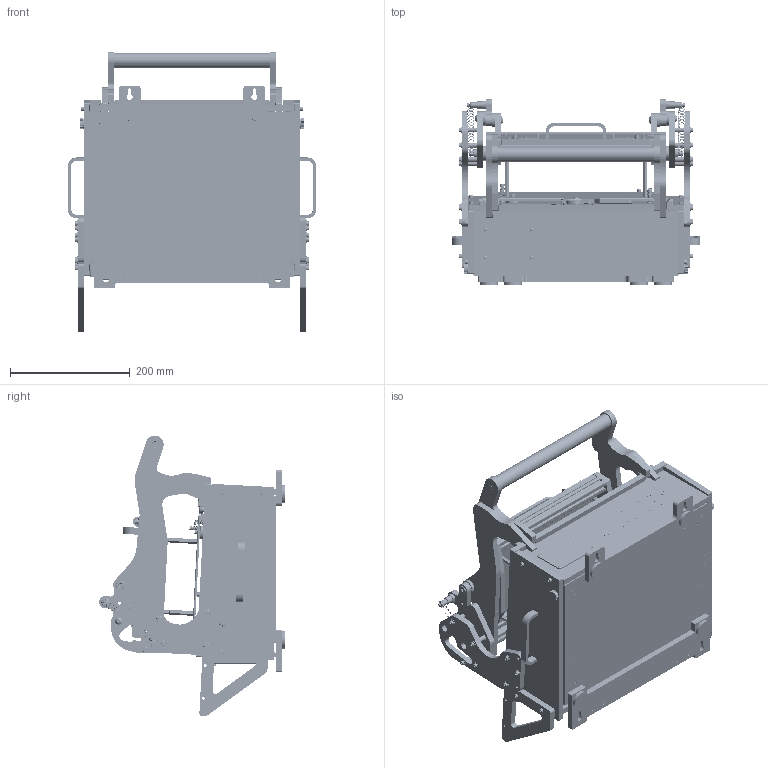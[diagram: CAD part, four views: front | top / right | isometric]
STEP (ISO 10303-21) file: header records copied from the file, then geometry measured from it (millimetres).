
FILE_DESCRIPTION (( 'STEP AP214' ), '1' );
FILE_NAME ('ARF-QLe-P-NSM2-P&P - Fermé.STEP', '2026-10-09T14:19:13', ( '' ), ( '' ), 'SwSTEP 2.0', 'SolidWorks 2015', '' );
FILE_SCHEMA (( 'AUTOMOTIVE_DESIGN' ));
Length unit declared in the file: millimetre
Products named in the file (133): 8005_119; 8005_167; gd4x14; Insert M4 profilé 5; ARF-QLe-P-NSM2-P&P - Fermé; 8005_136; 8005_029; chc_04x12; 8005_058_Connect‚; 8005_407 STEP; V-15-1CQ; 8005_052 - STEP_Fermer; chc_03x06; F Torx 04x08; 607-2z; 8122_444; Poignée_low_cost; F Torx 05x16; 8005_268; 8122_205; 8005_425 STEP; 8005_416; 8131_110 (PlaqueID); 8005_304; chc_04x10; 8005_199; 8005_322; 8005_053; chc_4x16; tb3ss_cage_a_billes_assemblée; Bague a renommer; chc_03x08; t31760; chc_04x20; el_d4x5; 035618047; demi_charniere; 8005_420; chc_03x05; 8005_185_Logo ARF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
Assembly tree (372 placements, depth 6):
  ARF-QLe-P-NSM2-P&P - Fermé
    8005_056_Fermer
      8005_198_Equere fermer
        8005_307
        chc_04x12  x4
        8005_205  x2
        chc_03x20  x4
        chc_03x05  x2
        Compas
          Compas-support1
          bras de compas  x2
          rivet compas  x3
          Compas-support2
        8005_240
        8005_243
        8005_198 (patin en mousse)  x4
        demi_charniere  x2
        F Torx 05x08  x4
      8005_068
        8005_136
          8005_136
          M04 Hu  x4
          F Torx 05x08  x4
          demi_charniere  x2
        8005_185_Logo ARF
          M04 Hu  x4
          8005_185
          8131_110 (PlaqueID)
          RIVET 3 LONG  x4
        8005_088
          8005_255
          M04 Hu  x2
          chc_03x08  x2
          chc_04x16  x2
          Poignée_low_cost
          8005_028
            chc_04x16
            038040159905
          chc_04x10  x2
          gd4x14  x2
        8005_119
          8005_119
          M04 Hu  x2
          chc_04x16  x2
          8005_028
            chc_04x16
            038040159905
          Poignée_low_cost
          chc_04x10  x2
          gd4x14  x2
        8005_058_Connect‚
          8005_200
          8005_128
          8005_268
          chc_04x12  x6
          chc_04x16  x4
          chc_03x20  x2
          chc_03x30  x2
          8005_039
            8005_409
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Bounding box: 413.8 x 309.83 x 468.51 mm (x, y, z)
Volume: 6379129.7 mm3; surface area: 2088133.3 mm2
Topology: 363 solids, 363 shells, 10411 faces, 26470 edges, 17223 vertices
Faces by surface type: plane 4946, cylinder 4147, cone 812, torus 384, bspline 68, sphere 54
Entity records: 204841 total; most frequent: CARTESIAN_POINT 48217, DIRECTION 31729, ORIENTED_EDGE 29634, EDGE_CURVE 14817, AXIS2_PLACEMENT_3D 11849, VERTEX_POINT 9748, VECTOR 8031, LINE 8031
